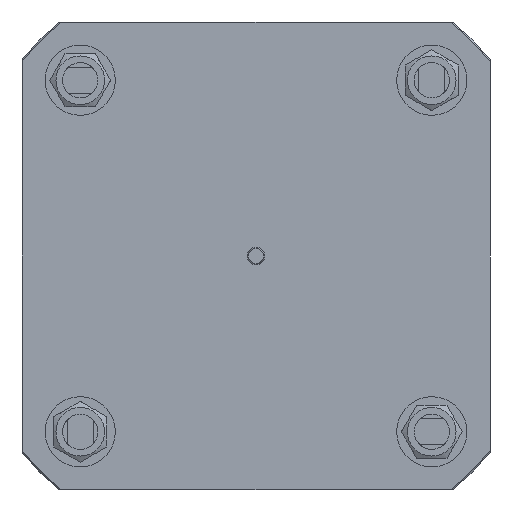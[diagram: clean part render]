
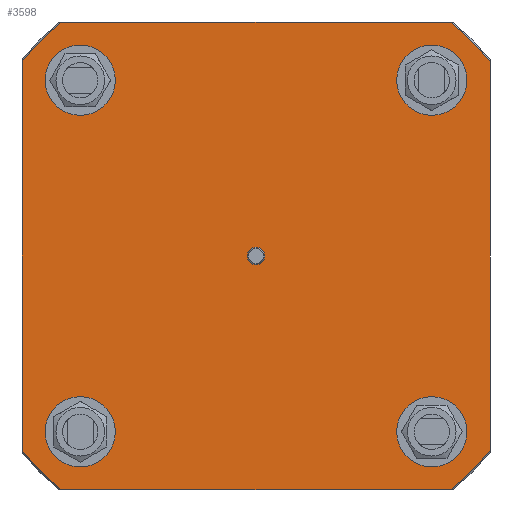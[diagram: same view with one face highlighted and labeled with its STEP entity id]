
A CAD part, left-side view. The second image highlights one B-rep face of the part: STEP entity #3598.
In plain terms, the highlighted planar face has unit normal (-1, 0, 0).
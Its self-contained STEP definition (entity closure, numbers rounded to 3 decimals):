
#228=LINE('',#6082,#434);
#229=LINE('',#6086,#435);
#230=LINE('',#6090,#436);
#231=LINE('',#6094,#437);
#434=VECTOR('',#4847,10.);
#435=VECTOR('',#4850,10.);
#436=VECTOR('',#4853,10.);
#437=VECTOR('',#4856,10.);
#667=FACE_BOUND('',#1074,.T.);
#668=FACE_BOUND('',#1075,.T.);
#669=FACE_BOUND('',#1076,.T.);
#670=FACE_BOUND('',#1077,.T.);
#671=FACE_BOUND('',#1078,.T.);
#837=FACE_OUTER_BOUND('',#1073,.T.);
#1073=EDGE_LOOP('',(#2907,#2908,#2909,#2910,#2911,#2912,#2913,#2914));
#1074=EDGE_LOOP('',(#2915));
#1075=EDGE_LOOP('',(#2916));
#1076=EDGE_LOOP('',(#2917));
#1077=EDGE_LOOP('',(#2918));
#1078=EDGE_LOOP('',(#2919));
#1155=CIRCLE('',#3715,12.);
#1157=CIRCLE('',#3719,12.);
#1159=CIRCLE('',#3723,12.);
#1164=CIRCLE('',#3739,12.);
#1283=CIRCLE('',#3963,3.);
#1293=CIRCLE('',#3978,104.);
#1294=CIRCLE('',#3979,104.);
#1295=CIRCLE('',#3980,104.);
#1296=CIRCLE('',#3981,104.);
#1388=VERTEX_POINT('',#5317);
#1390=VERTEX_POINT('',#5324);
#1392=VERTEX_POINT('',#5331);
#1409=VERTEX_POINT('',#5409);
#1577=VERTEX_POINT('',#5991);
#1595=VERTEX_POINT('',#6080);
#1596=VERTEX_POINT('',#6081);
#1597=VERTEX_POINT('',#6083);
#1598=VERTEX_POINT('',#6085);
#1599=VERTEX_POINT('',#6087);
#1600=VERTEX_POINT('',#6089);
#1601=VERTEX_POINT('',#6091);
#1602=VERTEX_POINT('',#6093);
#1734=EDGE_CURVE('',#1388,#1388,#1155,.T.);
#1737=EDGE_CURVE('',#1390,#1390,#1157,.T.);
#1740=EDGE_CURVE('',#1392,#1392,#1159,.T.);
#1766=EDGE_CURVE('',#1409,#1409,#1164,.T.);
#2027=EDGE_CURVE('',#1577,#1577,#1283,.T.);
#2048=EDGE_CURVE('',#1595,#1596,#228,.T.);
#2049=EDGE_CURVE('',#1596,#1597,#1293,.T.);
#2050=EDGE_CURVE('',#1597,#1598,#229,.T.);
#2051=EDGE_CURVE('',#1598,#1599,#1294,.T.);
#2052=EDGE_CURVE('',#1599,#1600,#230,.T.);
#2053=EDGE_CURVE('',#1600,#1601,#1295,.T.);
#2054=EDGE_CURVE('',#1601,#1602,#231,.T.);
#2055=EDGE_CURVE('',#1602,#1595,#1296,.T.);
#2907=ORIENTED_EDGE('',*,*,#2048,.T.);
#2908=ORIENTED_EDGE('',*,*,#2049,.T.);
#2909=ORIENTED_EDGE('',*,*,#2050,.T.);
#2910=ORIENTED_EDGE('',*,*,#2051,.T.);
#2911=ORIENTED_EDGE('',*,*,#2052,.T.);
#2912=ORIENTED_EDGE('',*,*,#2053,.T.);
#2913=ORIENTED_EDGE('',*,*,#2054,.T.);
#2914=ORIENTED_EDGE('',*,*,#2055,.T.);
#2915=ORIENTED_EDGE('',*,*,#1734,.T.);
#2916=ORIENTED_EDGE('',*,*,#1737,.T.);
#2917=ORIENTED_EDGE('',*,*,#1740,.T.);
#2918=ORIENTED_EDGE('',*,*,#1766,.T.);
#2919=ORIENTED_EDGE('',*,*,#2027,.T.);
#3227=PLANE('',#3977);
#3598=ADVANCED_FACE('',(#837,#667,#668,#669,#670,#671),#3227,.T.);
#3715=AXIS2_PLACEMENT_3D('',#5318,#4185,#4186);
#3719=AXIS2_PLACEMENT_3D('',#5325,#4194,#4195);
#3723=AXIS2_PLACEMENT_3D('',#5332,#4203,#4204);
#3739=AXIS2_PLACEMENT_3D('',#5410,#4244,#4245);
#3963=AXIS2_PLACEMENT_3D('',#5992,#4810,#4811);
#3977=AXIS2_PLACEMENT_3D('',#6079,#4845,#4846);
#3978=AXIS2_PLACEMENT_3D('',#6084,#4848,#4849);
#3979=AXIS2_PLACEMENT_3D('',#6088,#4851,#4852);
#3980=AXIS2_PLACEMENT_3D('',#6092,#4854,#4855);
#3981=AXIS2_PLACEMENT_3D('',#6095,#4857,#4858);
#4185=DIRECTION('center_axis',(1.,0.,0.));
#4186=DIRECTION('ref_axis',(0.,0.,1.));
#4194=DIRECTION('center_axis',(1.,0.,0.));
#4195=DIRECTION('ref_axis',(0.,1.,0.));
#4203=DIRECTION('center_axis',(1.,0.,0.));
#4204=DIRECTION('ref_axis',(0.,0.,-1.));
#4244=DIRECTION('center_axis',(1.,0.,0.));
#4245=DIRECTION('ref_axis',(0.,-1.,0.));
#4810=DIRECTION('center_axis',(1.,0.,0.));
#4811=DIRECTION('ref_axis',(0.,1.,0.));
#4845=DIRECTION('center_axis',(-1.,0.,0.));
#4846=DIRECTION('ref_axis',(0.,0.,-1.));
#4847=DIRECTION('',(0.,-1.,0.));
#4848=DIRECTION('center_axis',(-1.,0.,0.));
#4849=DIRECTION('ref_axis',(0.,0.,-1.));
#4850=DIRECTION('',(0.,0.,1.));
#4851=DIRECTION('center_axis',(-1.,0.,0.));
#4852=DIRECTION('ref_axis',(0.,0.,-1.));
#4853=DIRECTION('',(0.,1.,0.));
#4854=DIRECTION('center_axis',(-1.,0.,0.));
#4855=DIRECTION('ref_axis',(0.,0.,-1.));
#4856=DIRECTION('',(0.,0.,-1.));
#4857=DIRECTION('center_axis',(-1.,0.,0.));
#4858=DIRECTION('ref_axis',(0.,0.,-1.));
#5317=CARTESIAN_POINT('',(-173.021,72.628,-72.104));
#5318=CARTESIAN_POINT('Origin',(-173.021,72.628,-60.104));
#5324=CARTESIAN_POINT('',(-173.021,-59.581,-60.104));
#5325=CARTESIAN_POINT('Origin',(-173.021,-47.581,-60.104));
#5331=CARTESIAN_POINT('',(-173.021,-47.581,72.104));
#5332=CARTESIAN_POINT('Origin',(-173.021,-47.581,60.104));
#5409=CARTESIAN_POINT('',(-173.021,84.628,60.104));
#5410=CARTESIAN_POINT('Origin',(-173.021,72.628,60.104));
#5991=CARTESIAN_POINT('',(-173.021,9.523,0.));
#5992=CARTESIAN_POINT('Origin',(-173.021,12.523,0.));
#6079=CARTESIAN_POINT('Origin',(-173.021,9.423,0.));
#6080=CARTESIAN_POINT('',(-173.021,78.976,-80.));
#6081=CARTESIAN_POINT('',(-173.021,-53.93,-80.));
#6082=CARTESIAN_POINT('',(-173.021,50.973,-80.));
#6083=CARTESIAN_POINT('',(-173.021,-67.477,-66.453));
#6084=CARTESIAN_POINT('Origin',(-173.021,12.523,0.));
#6085=CARTESIAN_POINT('',(-173.021,-67.477,66.453));
#6086=CARTESIAN_POINT('',(-173.021,-67.477,-40.));
#6087=CARTESIAN_POINT('',(-173.021,-53.93,80.));
#6088=CARTESIAN_POINT('Origin',(-173.021,12.523,0.));
#6089=CARTESIAN_POINT('',(-173.021,78.976,80.));
#6090=CARTESIAN_POINT('',(-173.021,-29.027,80.));
#6091=CARTESIAN_POINT('',(-173.021,92.523,66.453));
#6092=CARTESIAN_POINT('Origin',(-173.021,12.523,0.));
#6093=CARTESIAN_POINT('',(-173.021,92.523,-66.453));
#6094=CARTESIAN_POINT('',(-173.021,92.523,40.));
#6095=CARTESIAN_POINT('Origin',(-173.021,12.523,0.));
